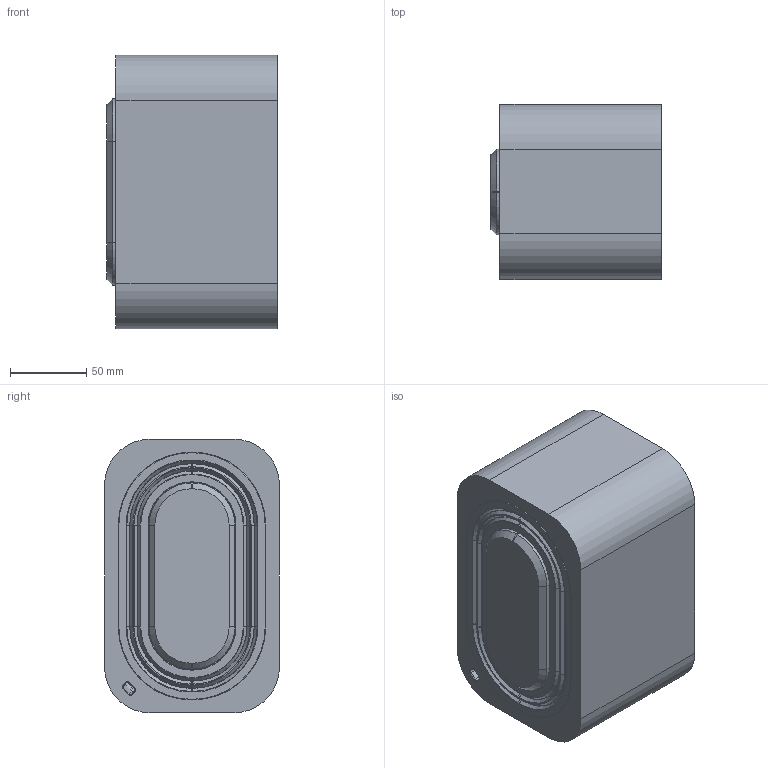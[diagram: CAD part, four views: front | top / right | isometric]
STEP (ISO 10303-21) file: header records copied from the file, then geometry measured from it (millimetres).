
FILE_DESCRIPTION(/* description */ (''),/* implementation_level */ '2;1');
FILE_NAME(/* name */ 'H:/3D models/Speakers/P2R Subwoofer/PPR Subwoofer STEP file.step',/* time_stamp */ '2021-04-11T17:11:00-07:00',/* author */ (''),/* organization */ (''),/* preprocessor_version */ 'ST-DEVELOPER v18.1',/* originating_system */ 'Autodesk Translation Framework v10.6.0.1341',/* authorisation */ '');
FILE_SCHEMA (('AUTOMOTIVE_DESIGN { 1 0 10303 214 3 1 1 }'));
Length unit declared in the file: millimetre
Products named in the file (7): W3-1876s w Passive radiator 3p; Enclosure; Front Baffle; Passive radiator rectangular v7; surround; Hard Bits; Assembly clamp for glueing surround
Assembly tree (6 placements, depth 3):
  W3-1876s w Passive radiator 3p
    Enclosure
    Front Baffle
    Passive radiator rectangular v7
      surround
      Hard Bits
      Assembly clamp for glueing surround
Bounding box: 112 x 115 x 180 mm (x, y, z)
Volume: 766616.8 mm3; surface area: 213737 mm2
Topology: 5 solids, 5 shells, 435 faces, 1074 edges, 665 vertices
Faces by surface type: plane 208, cylinder 113, cone 74, bspline 35, torus 5
Full cylindrical faces by diameter (mm): 2.7 x8, 3.4 x2, 6 x2, 93.6 x1
Entity records: 14265 total; most frequent: CARTESIAN_POINT 3744, ORIENTED_EDGE 2146, DIRECTION 2136, EDGE_CURVE 1073, AXIS2_PLACEMENT_3D 732, LINE 672, VECTOR 672, VERTEX_POINT 665
